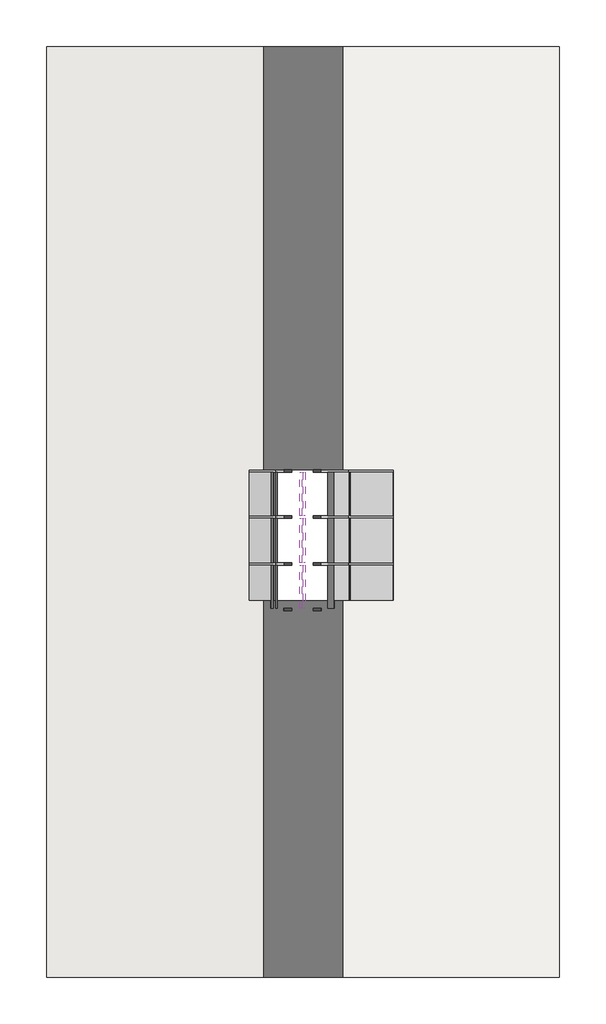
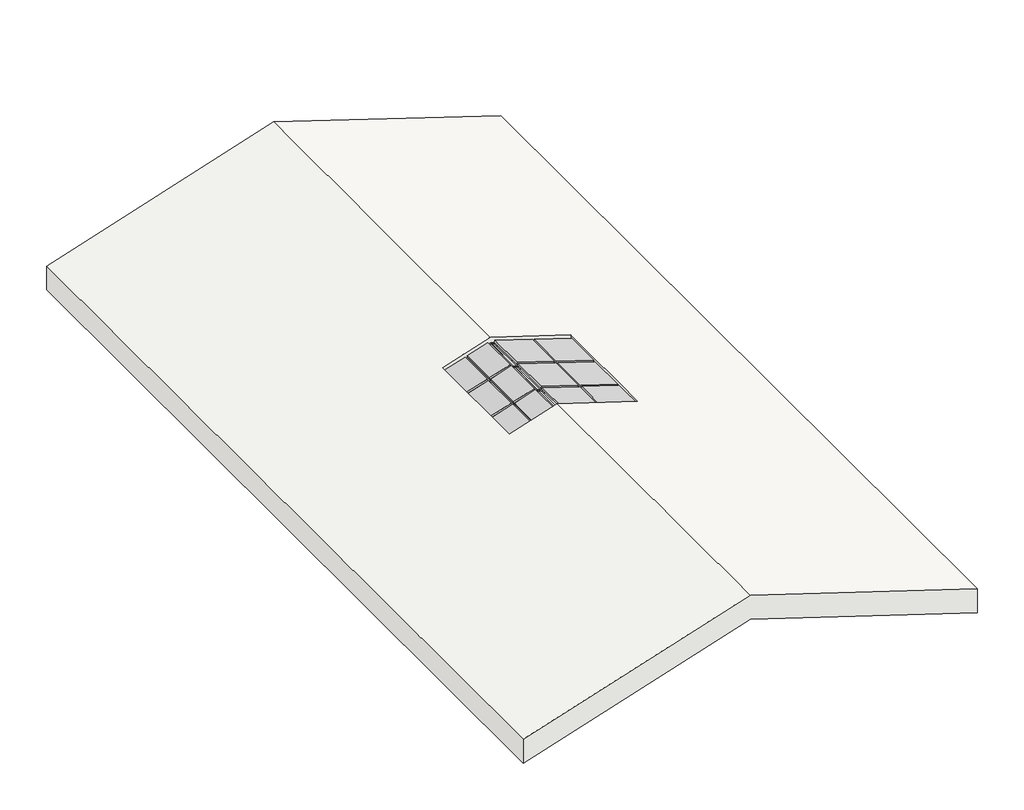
# One storey: 34 members, 12 plates, 1 roof.
"""IFC4 building model written with IfcOpenShell, lengths in millimetres."""

import ifcopenshell
import ifcopenshell.guid

model = None  # the IFC model being written
_history = None  # IfcOwnerHistory: only IFC2X3 demands one
_inside = {}  # id of a spatial element -> (the spatial element, [elements in it])
_under = {}  # id of a project, library or spatial element -> (it, [spatial elements below it])
_declared = {}  # id of a project -> (the project, [libraries it declares])
_typed = {}  # id of a type object -> (the type object, [elements of that type])
_made_of = {}  # id of a material, layer set ... -> (it, [elements and type objects made of it])


def new_model(schema):
    """Start an empty IFC model of exactly this schema.

    Asked for "IFC4X3", IfcOpenShell would pick the latest addendum, in which some entities
    have other attributes; the version numbers below select the first issue.
    IFC2X3 requires an IfcOwnerHistory on every rooted entity: one is made here for all.
    """
    global model, _history
    if schema == "IFC4X3":
        model = ifcopenshell.file(schema_version=(4, 3, 0, 0))
    else:
        model = ifcopenshell.file(schema=schema)
    _inside.clear()
    _under.clear()
    _declared.clear()
    _typed.clear()
    _made_of.clear()
    _history = None
    if model.schema == "IFC2X3":
        org = make("IfcOrganization", Name="unknown")
        user = make(
            "IfcPersonAndOrganization",
            ThePerson=make("IfcPerson", FamilyName="unknown"),
            TheOrganization=org,
        )
        app = make(
            "IfcApplication",
            ApplicationDeveloper=org,
            Version="unknown",
            ApplicationFullName="unknown",
            ApplicationIdentifier="unknown",
        )
        _history = make(
            "IfcOwnerHistory",
            OwningUser=user,
            OwningApplication=app,
            ChangeAction="ADDED",
            CreationDate=0,
        )
    return model


def make(cls, **values):
    """One entity of the class cls with the attributes given. An attribute that is None is left unset."""
    return model.create_entity(
        cls, **{name: value for name, value in values.items() if value is not None}
    )


def rooted(cls, **values):
    """An entity with a GlobalId (a new one), such as an element, a storey or a relation."""
    return make(cls, GlobalId=ifcopenshell.guid.new(), OwnerHistory=_history, **values)


def si_unit(unit_type, name, prefix=None):
    """IfcSIUnit, for example si_unit("LENGTHUNIT", "METRE", prefix="MILLI")."""
    return make("IfcSIUnit", UnitType=unit_type, Prefix=prefix, Name=name)


def assignment(units):
    """IfcUnitAssignment: the units of a project."""
    return None if units is None else make("IfcUnitAssignment", Units=units)


def point(xyz):
    """IfcCartesianPoint."""
    return None if xyz is None else make("IfcCartesianPoint", Coordinates=xyz)


def direction(xyz):
    """IfcDirection."""
    return None if xyz is None else make("IfcDirection", DirectionRatios=xyz)


def frame(location, z_axis=None, x_axis=None):
    """IfcAxis2Placement3D, a coordinate frame: its origin and axes. An axis left out is left unset."""
    return make(
        "IfcAxis2Placement3D",
        Location=point(location),
        Axis=direction(z_axis),
        RefDirection=direction(x_axis),
    )


def origin():
    """The frame at (0, 0, 0) with its axes left unset."""
    return frame((0.0, 0.0, 0.0))


def origin_with_axes():
    """The frame at (0, 0, 0) with the z axis (0, 0, 1) and the x axis (1, 0, 0) written out."""
    return frame((0.0, 0.0, 0.0), z_axis=(0.0, 0.0, 1.0), x_axis=(1.0, 0.0, 0.0))


def place(relative_to, where):
    """IfcLocalPlacement: puts the frame where relative to a parent placement (None: the world)."""
    return make(
        "IfcLocalPlacement", PlacementRelTo=relative_to, RelativePlacement=where
    )


def context(
    kind, dimensions, precision=None, world=None, true_north=None, identifier=None
):
    """IfcGeometricRepresentationContext, for example the 3D "Model" context."""
    return make(
        "IfcGeometricRepresentationContext",
        ContextIdentifier=identifier,
        ContextType=kind,
        CoordinateSpaceDimension=dimensions,
        Precision=precision,
        WorldCoordinateSystem=world,
        TrueNorth=true_north,
    )


def project(units=None, contexts=None):
    """IfcProject with its units and contexts."""
    return rooted(
        "IfcProject",
        Name="project",
        RepresentationContexts=contexts,
        UnitsInContext=assignment(units),
    )


def spatial(cls, under=None, at=None, **own):
    """A site, building, storey or space (cls), placed at a placement, below another one or the project."""
    s = rooted(cls, ObjectPlacement=at, **own)
    if under is not None:
        _under.setdefault(under.id(), (under, []))[1].append(s)
    return s


def polyline(points):
    """IfcPolyline through the points."""
    return make("IfcPolyline", Points=[point(p) for p in points])


def outline(outer, holes=None, kind="AREA"):
    """IfcArbitraryClosedProfileDef: a profile drawn as a closed curve; with holes, ...WithVoids."""
    if holes is None:
        return make("IfcArbitraryClosedProfileDef", ProfileType=kind, OuterCurve=outer)
    return make(
        "IfcArbitraryProfileDefWithVoids",
        ProfileType=kind,
        OuterCurve=outer,
        InnerCurves=holes,
    )


def extrude(swept, where, along, depth):
    """IfcExtrudedAreaSolid: the profile swept, set in the frame where, extruded along a direction by depth."""
    return make(
        "IfcExtrudedAreaSolid",
        SweptArea=swept,
        Position=where,
        ExtrudedDirection=direction(along),
        Depth=depth,
    )


def faces_of(points, faces, orient=None, outer=None):
    """IfcFace entities. A face is a list of loops; a loop is a list of indices into points, from 0.

    orient and outer hold one flag for each loop. By default every Orientation is true, the
    first loop of a face is its IfcFaceOuterBound and the others are IfcFaceBound.
    """
    made = []
    for i, loops in enumerate(faces):
        bounds = []
        for j, loop in enumerate(loops):
            is_outer = j == 0 if outer is None else outer[i][j]
            bounds.append(
                make(
                    "IfcFaceOuterBound" if is_outer else "IfcFaceBound",
                    Bound=make("IfcPolyLoop", Polygon=[points[k] for k in loop]),
                    Orientation=True if orient is None else orient[i][j],
                )
            )
        made.append(make("IfcFace", Bounds=bounds))
    return made


def faceted_brep(points, faces, orient=None, outer=None, voids=None):
    """IfcFacetedBrep: a solid bounded by flat faces; with voids (closed shells), ...WithVoids."""
    shared = [point(p) for p in points]
    hull = make("IfcClosedShell", CfsFaces=faces_of(shared, faces, orient, outer))
    if voids is None:
        return make("IfcFacetedBrep", Outer=hull)
    return make(
        "IfcFacetedBrepWithVoids",
        Outer=hull,
        Voids=[
            make(cls, CfsFaces=faces_of(shared, fs, o, b)) for cls, fs, o, b in voids
        ],
    )


def shape(context_of_items, identifier, shape_type, items):
    """IfcShapeRepresentation: the items that make up one representation, for example the "Body"."""
    return make(
        "IfcShapeRepresentation",
        ContextOfItems=context_of_items,
        RepresentationIdentifier=identifier,
        RepresentationType=shape_type,
        Items=items,
    )


def source(mapping_origin, context_of_items, identifier, shape_type, items):
    """IfcRepresentationMap: a shape defined once, which mapped items show again and again."""
    return make(
        "IfcRepresentationMap",
        MappingOrigin=mapping_origin,
        MappedRepresentation=shape(context_of_items, identifier, shape_type, items),
    )


def transform(
    local_origin,
    x_axis=None,
    y_axis=None,
    z_axis=None,
    scale=None,
    scale2=None,
    scale3=None,
    uniform=True,
):
    """IfcCartesianTransformationOperator3D, or its non-uniform kind. x_axis, y_axis, z_axis: its Axis1, 2, 3."""
    if uniform:
        return make(
            "IfcCartesianTransformationOperator3D",
            Axis1=direction(x_axis),
            Axis2=direction(y_axis),
            LocalOrigin=point(local_origin),
            Scale=scale,
            Axis3=direction(z_axis),
        )
    return make(
        "IfcCartesianTransformationOperator3DnonUniform",
        Axis1=direction(x_axis),
        Axis2=direction(y_axis),
        LocalOrigin=point(local_origin),
        Scale=scale,
        Axis3=direction(z_axis),
        Scale2=scale2,
        Scale3=scale3,
    )


def mapped(mapping_source, mapping_target):
    """IfcMappedItem: shows the shape of a source again, moved by a transform."""
    return make(
        "IfcMappedItem", MappingSource=mapping_source, MappingTarget=mapping_target
    )


def made_of(thing, what):
    """Note that an element or type object is made of a material, layer set ...; save() writes the relation."""
    if what is not None:
        _made_of.setdefault(what.id(), (what, []))[1].append(thing)
    return thing


def element(
    cls,
    number,
    at=None,
    inside=None,
    cuts=None,
    type_object=None,
    material=None,
    context=None,
    identifier="Body",
    shape_type=None,
    held_by="IfcProductDefinitionShape",
    body=None,
    shapes=None,
    **own,
):
    """One element of the class cls, such as IfcWall. Its Tag is "e" and its number.

    at: its placement. inside: the storey or other place that contains it. cuts: it is an
    opening in that element (IfcRelVoidsElement). A single representation is given by context,
    identifier, shape_type and body (its items); several are given by shapes. held_by: the class
    of the entity that holds the representations. save() writes the other relations.
    """
    e = rooted(cls, Tag="e%d" % number, ObjectPlacement=at, **own)
    if body is not None:
        shapes = [shape(context, identifier, shape_type, body)]
    if shapes is not None:
        e.Representation = make(held_by, Representations=shapes)
    if inside is not None:
        _inside.setdefault(inside.id(), (inside, []))[1].append(e)
    if cuts is not None:
        rooted(
            "IfcRelVoidsElement", RelatingBuildingElement=cuts, RelatedOpeningElement=e
        )
    if type_object is not None:
        _typed.setdefault(type_object.id(), (type_object, []))[1].append(e)
    return made_of(e, material)


def aggregate(whole, parts):
    """IfcRelAggregates: a whole, such as a stair, and the parts it consists of."""
    return rooted("IfcRelAggregates", RelatingObject=whole, RelatedObjects=parts)


def save(model, path):
    """Write the relations noted so far, then the file.

    IfcRelAggregates (storeys below a building ...), IfcRelContainedInSpatialStructure (elements
    in a storey), IfcRelDefinesByType, IfcRelAssociatesMaterial and IfcRelDeclares: one each for
    every whole, place, type object, material and project.
    """
    for whole, parts in _under.values():
        aggregate(whole, parts)
    for where, things in _inside.values():
        rooted(
            "IfcRelContainedInSpatialStructure",
            RelatedElements=things,
            RelatingStructure=where,
        )
    for kind, things in _typed.values():
        rooted("IfcRelDefinesByType", RelatedObjects=things, RelatingType=kind)
    for what, things in _made_of.values():
        rooted("IfcRelAssociatesMaterial", RelatedObjects=things, RelatingMaterial=what)
    for by, libraries in _declared.values():
        rooted("IfcRelDeclares", RelatingContext=by, RelatedDefinitions=libraries)
    model.write(path)


def rectangular_mullion_30mm_square_e5194141(model_context):
    return source(origin(), model_context, "Body", "SweptSolid", [
        extrude(outline(polyline([(-15.0, 0.0), (15.0, 0.0), (15.0, -342.1521112), (-15.0, -351.7780141), (-15.0, 0.0)])), frame((-15.0, 0.0, 0.0), z_axis=(1.0, 0.0, 0.0), x_axis=(0.0, 1.0, 0.0)), (0.0, 0.0, 1.0), 30.0),
    ])


def rectangular_mullion_30mm_square_0eed9e45(model_context):
    return source(origin(), model_context, "Body", "SweptSolid", [
        extrude(outline(polyline([(15.0, 15.0), (15.0, -15.0), (-15.0, -15.0), (-15.0, 15.0), (15.0, 15.0)])), frame((0.0, 0.0, -530.0), z_axis=(0.0, 0.0, 1.0), x_axis=(1.0, 0.0, 0.0)), (0.0, 0.0, 1.0), 530.0),
    ])


def rectangular_mullion_30mm_square_a0bf7eaf(model_context):
    return source(origin(), model_context, "Body", "SweptSolid", [
        extrude(outline(polyline([(15.0, 15.0), (15.0, -15.0), (-15.0, -15.0), (-15.0, 15.0), (15.0, 15.0)])), frame((0.0, 0.0, -545.0), z_axis=(0.0, 0.0, 1.0), x_axis=(1.0, 0.0, 0.0)), (0.0, 0.0, 1.0), 545.0),
    ])


def rectangular_mullion_30mm_square_566eecd6(model_context):
    return source(origin(), model_context, "Body", "SweptSolid", [
        extrude(outline(polyline([(15.0, 15.0), (15.0, -15.0), (-15.0, -15.0), (-15.0, 15.0), (15.0, 15.0)])), frame((0.0, 0.0, -585.1015074), z_axis=(0.0, 0.0, 1.0), x_axis=(1.0, 0.0, 0.0)), (0.0, 0.0, 1.0), 585.1015074),
    ])


def rectangular_mullion_30mm_square_ec360079(model_context):
    return source(origin(), model_context, "Body", "SweptSolid", [
        extrude(outline(polyline([(15.0, 15.0), (15.0, -15.0), (-15.0, -15.0), (-15.0, 15.0), (15.0, 15.0)])), frame((0.0, 0.0, -346.9650626), z_axis=(0.0, 0.0, 1.0), x_axis=(1.0, 0.0, 0.0)), (0.0, 0.0, 1.0), 346.9650626),
    ])


def rectangular_mullion_30mm_square_dfaa4696(model_context):
    return source(origin(), model_context, "Body", "SweptSolid", [
        extrude(outline(polyline([(0.0, 15.0), (0.0, -15.0), (-30.0, -15.0), (-30.0, 15.0), (0.0, 15.0)])), frame((0.0, 0.0, -585.1015074), z_axis=(0.0, 0.0, 1.0), x_axis=(1.0, 0.0, 0.0)), (0.0, 0.0, 1.0), 585.1015074),
    ])


def rectangular_mullion_30mm_square_f75d90f3(model_context):
    return source(origin(), model_context, "Body", "SweptSolid", [
        extrude(outline(polyline([(0.0, 15.0), (0.0, -15.0), (-30.0, -15.0), (-30.0, 15.0), (0.0, 15.0)])), frame((0.0, 0.0, -530.0), z_axis=(0.0, 0.0, 1.0), x_axis=(1.0, 0.0, 0.0)), (0.0, 0.0, 1.0), 530.0),
    ])


def rectangular_mullion_30mm_square_a71511a0(model_context):
    return source(origin(), model_context, "Body", "SweptSolid", [
        extrude(outline(polyline([(0.0, 15.0), (0.0, -15.0), (-30.0, -15.0), (-30.0, 15.0), (0.0, 15.0)])), frame((0.0, 0.0, -545.0), z_axis=(0.0, 0.0, 1.0), x_axis=(1.0, 0.0, 0.0)), (0.0, 0.0, 1.0), 545.0),
    ])


def rectangular_mullion_30mm_square_c053b5b2(model_context):
    return source(origin(), model_context, "Body", "SweptSolid", [
        extrude(outline(polyline([(0.0, 15.0), (0.0, -15.0), (-30.0, -15.0), (-30.0, 15.0), (0.0, 15.0)])), frame((0.0, 0.0, -346.9650626), z_axis=(0.0, 0.0, 1.0), x_axis=(1.0, 0.0, 0.0)), (0.0, 0.0, 1.0), 346.9650626),
    ])


def rectangular_mullion_30mm_square_f0c17284(model_context):
    return source(origin(), model_context, "Body", "SweptSolid", [
        extrude(outline(polyline([(-15.0, 4.8129514), (15.0, -4.8129514), (15.0, -585.1015074), (-15.0, -585.1015074), (-15.0, 4.8129514)])), frame((-15.0, 0.0, 0.0), z_axis=(1.0, 0.0, 0.0), x_axis=(0.0, 1.0, 0.0)), (0.0, 0.0, 1.0), 30.0),
    ])


def m_glazed_panel_glazed_panel_fdc266c1(model_context):
    return source(origin(), model_context, "Body", "SweptSolid", [
        extrude(outline(polyline([(265.0, 38.5), (-265.0, 38.5), (-265.0, 63.5), (265.0, 63.5), (265.0, 38.5)])), origin_with_axes(), (0.0, 0.0, 1.0), 301.9650626),
    ])


def m_glazed_panel_glazed_panel_67c75c62(model_context):
    return source(origin(), model_context, "Body", "SweptSolid", [
        extrude(outline(polyline([(265.0, 38.5), (-265.0, 38.5), (-265.0, 63.5), (265.0, 63.5), (265.0, 38.5)])), origin_with_axes(), (0.0, 0.0, 1.0), 540.1015074),
    ])


def m_glazed_panel_glazed_panel_c1b7c775(model_context):
    return source(origin(), model_context, "Body", "SweptSolid", [
        extrude(outline(polyline([(272.5, 38.5), (-272.5, 38.5), (-272.5, 63.5), (272.5, 63.5), (272.5, 38.5)])), origin_with_axes(), (0.0, 0.0, 1.0), 540.1015074),
    ])


def m_glazed_panel_glazed_panel_9a824eb0(model_context):
    return source(origin(), model_context, "Body", "SweptSolid", [
        extrude(outline(polyline([(272.5, 38.5), (-272.5, 38.5), (-272.5, 63.5), (272.5, 63.5), (272.5, 38.5)])), origin_with_axes(), (0.0, 0.0, 1.0), 301.9650626),
    ])


model = new_model("IFC4")

# Units and contexts
model_context = context("Model", 3, world=origin())
ifc_project = project(units=[si_unit("LENGTHUNIT", "METRE", prefix="MILLI")], contexts=[model_context])

# Site, building, storey
site = spatial("IfcSite", under=ifc_project)
building = spatial("IfcBuilding", under=site)
storey = spatial("IfcBuildingStorey", under=building, Name="Střecha", Elevation=6000.0)

# Members
placement = place(None, origin())
rectangular_mullion_30mm_square_shape = rectangular_mullion_30mm_square_e5194141(model_context)
element("IfcMember", 1, ObjectType="Rectangular Mullion : 30mm Square", at=placement, inside=storey, context=model_context, shape_type="MappedRepresentation", body=[
    mapped(rectangular_mullion_30mm_square_shape, transform((-5331.4516822, -1176.8406402, 7152.0615541), x_axis=(0.0, 1.0, 0.0), y_axis=(0.30552140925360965, 0.0, -0.9521852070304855), z_axis=(-0.9521852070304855, 0.0, -0.30552140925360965))),
])
element("IfcMember", 2, ObjectType="Rectangular Mullion : 30mm Square", at=placement, inside=storey, context=model_context, shape_type="MappedRepresentation", body=[
    mapped(rectangular_mullion_30mm_square_shape, transform((-5331.4516822, -1751.8406402, 7152.0615541), x_axis=(0.0, 1.0, 0.0), y_axis=(0.30552140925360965, 0.0, -0.9521852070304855), z_axis=(-0.9521852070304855, 0.0, -0.30552140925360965))),
])
rectangular_mullion_30mm_square_2_shape = rectangular_mullion_30mm_square_0eed9e45(model_context)
element("IfcMember", 3, ObjectType="Rectangular Mullion : 30mm Square", at=placement, inside=storey, context=model_context, shape_type="MappedRepresentation", body=[
    mapped(rectangular_mullion_30mm_square_2_shape, transform((-4443.9516822, -1766.8406402, 7079.3057719), x_axis=(0.952185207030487, 0.0, -0.3055214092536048), y_axis=(-0.3055214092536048, 0.0, -0.952185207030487), z_axis=(0.0, 1.0, 0.0))),
])
element("IfcMember", 4, ObjectType="Rectangular Mullion : 30mm Square", at=placement, inside=storey, context=model_context, shape_type="MappedRepresentation", body=[
    mapped(rectangular_mullion_30mm_square_2_shape, transform((-4443.9516822, -631.8406402, 7079.3057719), x_axis=(0.952185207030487, 0.0, -0.3055214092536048), y_axis=(-0.3055214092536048, 0.0, -0.952185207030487), z_axis=(0.0, 1.0, 0.0))),
])
rectangular_mullion_30mm_square_3_shape = rectangular_mullion_30mm_square_a0bf7eaf(model_context)
element("IfcMember", 5, ObjectType="Rectangular Mullion : 30mm Square", at=placement, inside=storey, context=model_context, shape_type="MappedRepresentation", body=[
    mapped(rectangular_mullion_30mm_square_3_shape, transform((-4443.9516822, -1191.8406402, 7079.3057719), x_axis=(0.952185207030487, 0.0, -0.3055214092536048), y_axis=(-0.3055214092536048, 0.0, -0.952185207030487), z_axis=(0.0, 1.0, 0.0))),
])
rectangular_mullion_30mm_square_4_shape = rectangular_mullion_30mm_square_566eecd6(model_context)
element("IfcMember", 6, ObjectType="Rectangular Mullion : 30mm Square", at=placement, inside=storey, context=model_context, shape_type="MappedRepresentation", body=[
    mapped(rectangular_mullion_30mm_square_4_shape, transform((-4443.9516822, -1176.8406402, 7079.3057719), x_axis=(0.0, 1.0, 0.0), y_axis=(-0.3055214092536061, 0.0, -0.9521852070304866), z_axis=(-0.9521852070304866, 0.0, 0.3055214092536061))),
])
element("IfcMember", 7, ObjectType="Rectangular Mullion : 30mm Square", at=placement, inside=storey, context=model_context, shape_type="MappedRepresentation", body=[
    mapped(rectangular_mullion_30mm_square_4_shape, transform((-4443.9516822, -1751.8406402, 7079.3057719), x_axis=(0.0, 1.0, 0.0), y_axis=(-0.3055214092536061, 0.0, -0.9521852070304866), z_axis=(-0.9521852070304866, 0.0, 0.3055214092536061))),
])
rectangular_mullion_30mm_square_5_shape = rectangular_mullion_30mm_square_ec360079(model_context)
element("IfcMember", 8, ObjectType="Rectangular Mullion : 30mm Square", at=placement, inside=storey, context=model_context, shape_type="MappedRepresentation", body=[
    mapped(rectangular_mullion_30mm_square_5_shape, transform((-5661.8266822, -1176.8406402, 7046.0562992), x_axis=(0.0, 1.0, 0.0), y_axis=(0.30552140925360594, 0.0, -0.9521852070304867), z_axis=(-0.9521852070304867, 0.0, -0.30552140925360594))),
])
element("IfcMember", 9, ObjectType="Rectangular Mullion : 30mm Square", at=placement, inside=storey, context=model_context, shape_type="MappedRepresentation", body=[
    mapped(rectangular_mullion_30mm_square_5_shape, transform((-5661.8266822, -1751.8406402, 7046.0562992), x_axis=(0.0, 1.0, 0.0), y_axis=(0.30552140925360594, 0.0, -0.9521852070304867), z_axis=(-0.9521852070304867, 0.0, -0.30552140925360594))),
])
element("IfcMember", 10, ObjectType="Rectangular Mullion : 30mm Square", at=placement, inside=storey, context=model_context, shape_type="MappedRepresentation", body=[
    mapped(rectangular_mullion_30mm_square_2_shape, transform((-5331.4516822, -1766.8406402, 7152.0615541), x_axis=(0.9521852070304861, 0.0, 0.3055214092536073), y_axis=(0.3055214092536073, 0.0, -0.9521852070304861), z_axis=(0.0, 1.0, 0.0))),
])
element("IfcMember", 11, ObjectType="Rectangular Mullion : 30mm Square", at=placement, inside=storey, context=model_context, shape_type="MappedRepresentation", body=[
    mapped(rectangular_mullion_30mm_square_2_shape, transform((-5331.4516822, -631.8406402, 7152.0615541), x_axis=(0.9521852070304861, 0.0, 0.3055214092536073), y_axis=(0.3055214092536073, 0.0, -0.9521852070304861), z_axis=(0.0, 1.0, 0.0))),
])
element("IfcMember", 12, ObjectType="Rectangular Mullion : 30mm Square", at=placement, inside=storey, context=model_context, shape_type="MappedRepresentation", body=[
    mapped(rectangular_mullion_30mm_square_3_shape, transform((-5331.4516822, -1191.8406402, 7152.0615541), x_axis=(0.9521852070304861, 0.0, 0.3055214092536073), y_axis=(0.3055214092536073, 0.0, -0.9521852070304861), z_axis=(0.0, 1.0, 0.0))),
])
rectangular_mullion_30mm_square_6_shape = rectangular_mullion_30mm_square_dfaa4696(model_context)
element("IfcMember", 13, ObjectType="Rectangular Mullion : 30mm Square", at=placement, inside=storey, context=model_context, shape_type="MappedRepresentation", body=[
    mapped(rectangular_mullion_30mm_square_6_shape, transform((-5001.0766822, -601.8406402, 7258.066809), x_axis=(0.0, 1.0, 0.0), y_axis=(-0.30552140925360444, 0.0, -0.9521852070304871), z_axis=(-0.952185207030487, 0.0, 0.3055214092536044))),
])
rectangular_mullion_30mm_square_7_shape = rectangular_mullion_30mm_square_f75d90f3(model_context)
element("IfcMember", 14, ObjectType="Rectangular Mullion : 30mm Square", at=placement, inside=storey, context=model_context, shape_type="MappedRepresentation", body=[
    mapped(rectangular_mullion_30mm_square_7_shape, transform((-5001.0766822, -2296.8406402, 7258.066809), x_axis=(-0.952185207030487, 0.0, 0.3055214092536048), y_axis=(-0.3055214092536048, 0.0, -0.952185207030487), z_axis=(0.0, -1.0, 0.0))),
])
element("IfcMember", 15, ObjectType="Rectangular Mullion : 30mm Square", at=placement, inside=storey, context=model_context, shape_type="MappedRepresentation", body=[
    mapped(rectangular_mullion_30mm_square_7_shape, transform((-5001.0766822, -1161.8406402, 7258.066809), x_axis=(-0.952185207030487, 0.0, 0.3055214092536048), y_axis=(-0.3055214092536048, 0.0, -0.952185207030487), z_axis=(0.0, -1.0, 0.0))),
])
element("IfcMember", 16, ObjectType="Rectangular Mullion : 30mm Square", at=placement, inside=storey, context=model_context, shape_type="MappedRepresentation", body=[
    mapped(rectangular_mullion_30mm_square_7_shape, transform((-5001.0766822, -631.8406402, 7258.066809), x_axis=(0.9521852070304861, 0.0, 0.3055214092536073), y_axis=(0.3055214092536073, 0.0, -0.9521852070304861), z_axis=(0.0, 1.0, 0.0))),
])
element("IfcMember", 17, ObjectType="Rectangular Mullion : 30mm Square", at=placement, inside=storey, context=model_context, shape_type="MappedRepresentation", body=[
    mapped(rectangular_mullion_30mm_square_7_shape, transform((-5001.0766822, -1766.8406402, 7258.066809), x_axis=(0.9521852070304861, 0.0, 0.3055214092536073), y_axis=(0.3055214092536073, 0.0, -0.9521852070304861), z_axis=(0.0, 1.0, 0.0))),
])
element("IfcMember", 18, ObjectType="Rectangular Mullion : 30mm Square", at=placement, inside=storey, context=model_context, shape_type="MappedRepresentation", body=[
    mapped(rectangular_mullion_30mm_square_7_shape, transform((-3886.8266822, -631.8406402, 6900.5447348), x_axis=(0.952185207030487, 0.0, -0.3055214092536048), y_axis=(-0.3055214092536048, 0.0, -0.952185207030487), z_axis=(0.0, 1.0, 0.0))),
])
element("IfcMember", 19, ObjectType="Rectangular Mullion : 30mm Square", at=placement, inside=storey, context=model_context, shape_type="MappedRepresentation", body=[
    mapped(rectangular_mullion_30mm_square_7_shape, transform((-3886.8266822, -1766.8406402, 6900.5447348), x_axis=(0.952185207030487, 0.0, -0.3055214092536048), y_axis=(-0.3055214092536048, 0.0, -0.952185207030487), z_axis=(0.0, 1.0, 0.0))),
])
element("IfcMember", 20, ObjectType="Rectangular Mullion : 30mm Square", at=placement, inside=storey, context=model_context, shape_type="MappedRepresentation", body=[
    mapped(rectangular_mullion_30mm_square_7_shape, transform((-5661.8266822, -2296.8406402, 7046.0562992), x_axis=(-0.9521852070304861, 0.0, -0.3055214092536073), y_axis=(0.3055214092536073, 0.0, -0.9521852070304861), z_axis=(0.0, -1.0, 0.0))),
])
element("IfcMember", 21, ObjectType="Rectangular Mullion : 30mm Square", at=placement, inside=storey, context=model_context, shape_type="MappedRepresentation", body=[
    mapped(rectangular_mullion_30mm_square_7_shape, transform((-5661.8266822, -1161.8406402, 7046.0562992), x_axis=(-0.9521852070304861, 0.0, -0.3055214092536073), y_axis=(0.3055214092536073, 0.0, -0.9521852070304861), z_axis=(0.0, -1.0, 0.0))),
])
element("IfcMember", 22, ObjectType="Rectangular Mullion : 30mm Square", at=placement, inside=storey, context=model_context, shape_type="MappedRepresentation", body=[
    mapped(rectangular_mullion_30mm_square_6_shape, transform((-3886.8266822, -2326.8406402, 6900.5447348), x_axis=(0.0, -1.0, 0.0), y_axis=(-0.30552140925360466, 0.0, -0.952185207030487), z_axis=(0.952185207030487, 0.0, -0.30552140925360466))),
])
element("IfcMember", 23, ObjectType="Rectangular Mullion : 30mm Square", at=placement, inside=storey, context=model_context, shape_type="MappedRepresentation", body=[
    mapped(rectangular_mullion_30mm_square_6_shape, transform((-4443.9516822, -601.8406402, 7079.3057719), x_axis=(0.0, 1.0, 0.0), y_axis=(-0.3055214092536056, 0.0, -0.9521852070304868), z_axis=(-0.9521852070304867, 0.0, 0.30552140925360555))),
])
rectangular_mullion_30mm_square_8_shape = rectangular_mullion_30mm_square_a71511a0(model_context)
element("IfcMember", 24, ObjectType="Rectangular Mullion : 30mm Square", at=placement, inside=storey, context=model_context, shape_type="MappedRepresentation", body=[
    mapped(rectangular_mullion_30mm_square_8_shape, transform((-3886.8266822, -1191.8406402, 6900.5447348), x_axis=(0.952185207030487, 0.0, -0.3055214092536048), y_axis=(-0.3055214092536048, 0.0, -0.952185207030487), z_axis=(0.0, 1.0, 0.0))),
])
element("IfcMember", 25, ObjectType="Rectangular Mullion : 30mm Square", at=placement, inside=storey, context=model_context, shape_type="MappedRepresentation", body=[
    mapped(rectangular_mullion_30mm_square_8_shape, transform((-5661.8266822, -1736.8406402, 7046.0562992), x_axis=(-0.9521852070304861, 0.0, -0.3055214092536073), y_axis=(0.3055214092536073, 0.0, -0.9521852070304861), z_axis=(0.0, -1.0, 0.0))),
])
element("IfcMember", 26, ObjectType="Rectangular Mullion : 30mm Square", at=placement, inside=storey, context=model_context, shape_type="MappedRepresentation", body=[
    mapped(rectangular_mullion_30mm_square_6_shape, transform((-4443.9516822, -2326.8406402, 7079.3057719), x_axis=(0.0, -1.0, 0.0), y_axis=(-0.3055214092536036, 0.0, -0.9521852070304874), z_axis=(0.9521852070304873, 0.0, -0.30552140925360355))),
])
element("IfcMember", 27, ObjectType="Rectangular Mullion : 30mm Square", at=placement, inside=storey, context=model_context, shape_type="MappedRepresentation", body=[
    mapped(rectangular_mullion_30mm_square_8_shape, transform((-5001.0766822, -1736.8406402, 7258.066809), x_axis=(-0.952185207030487, 0.0, 0.3055214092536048), y_axis=(-0.3055214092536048, 0.0, -0.952185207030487), z_axis=(0.0, -1.0, 0.0))),
])
element("IfcMember", 28, ObjectType="Rectangular Mullion : 30mm Square", at=placement, inside=storey, context=model_context, shape_type="MappedRepresentation", body=[
    mapped(rectangular_mullion_30mm_square_8_shape, transform((-5001.0766822, -1191.8406402, 7258.066809), x_axis=(0.9521852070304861, 0.0, 0.3055214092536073), y_axis=(0.3055214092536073, 0.0, -0.9521852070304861), z_axis=(0.0, 1.0, 0.0))),
])
rectangular_mullion_30mm_square_9_shape = rectangular_mullion_30mm_square_c053b5b2(model_context)
element("IfcMember", 29, ObjectType="Rectangular Mullion : 30mm Square", at=placement, inside=storey, context=model_context, shape_type="MappedRepresentation", body=[
    mapped(rectangular_mullion_30mm_square_9_shape, transform((-5661.8266822, -601.8406402, 7046.0562992), x_axis=(0.0, 1.0, 0.0), y_axis=(0.30552140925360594, 0.0, -0.9521852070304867), z_axis=(-0.9521852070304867, 0.0, -0.30552140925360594))),
])
element("IfcMember", 30, ObjectType="Rectangular Mullion : 30mm Square", at=placement, inside=storey, context=model_context, shape_type="MappedRepresentation", body=[
    mapped(rectangular_mullion_30mm_square_9_shape, transform((-5001.0766822, -2326.8406402, 7258.066809), x_axis=(0.0, -1.0, 0.0), y_axis=(0.30552140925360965, 0.0, -0.9521852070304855), z_axis=(0.9521852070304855, 0.0, 0.30552140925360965))),
])
element("IfcMember", 31, ObjectType="Rectangular Mullion : 30mm Square", at=placement, inside=storey, context=model_context, shape_type="MappedRepresentation", body=[
    mapped(rectangular_mullion_30mm_square_9_shape, transform((-5331.4516822, -601.8406402, 7152.0615541), x_axis=(0.0, 1.0, 0.0), y_axis=(0.30552140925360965, 0.0, -0.9521852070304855), z_axis=(-0.9521852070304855, 0.0, -0.30552140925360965))),
])
element("IfcMember", 32, ObjectType="Rectangular Mullion : 30mm Square", at=placement, inside=storey, context=model_context, shape_type="MappedRepresentation", body=[
    mapped(rectangular_mullion_30mm_square_9_shape, transform((-5331.4516822, -2326.8406402, 7152.0615541), x_axis=(0.0, -1.0, 0.0), y_axis=(0.3055214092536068, 0.0, -0.9521852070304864), z_axis=(0.9521852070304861, 0.0, 0.30552140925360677))),
])
rectangular_mullion_30mm_square_10_shape = rectangular_mullion_30mm_square_f0c17284(model_context)
element("IfcMember", 33, ObjectType="Rectangular Mullion : 30mm Square", at=placement, inside=storey, context=model_context, shape_type="MappedRepresentation", body=[
    mapped(rectangular_mullion_30mm_square_10_shape, transform((-5001.0766822, -1176.8406402, 7258.066809), x_axis=(0.0, 1.0, 0.0), y_axis=(-0.30552140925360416, 0.0, -0.9521852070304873), z_axis=(-0.9521852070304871, 0.0, 0.3055214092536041))),
])
element("IfcMember", 34, ObjectType="Rectangular Mullion : 30mm Square", at=placement, inside=storey, context=model_context, shape_type="MappedRepresentation", body=[
    mapped(rectangular_mullion_30mm_square_10_shape, transform((-5001.0766822, -1751.8406402, 7258.066809), x_axis=(0.0, 1.0, 0.0), y_axis=(-0.30552140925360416, 0.0, -0.9521852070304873), z_axis=(-0.9521852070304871, 0.0, 0.3055214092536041))),
])

# Plates
m_glazed_panel_glazed_panel_shape = m_glazed_panel_glazed_panel_fdc266c1(model_context)
element("IfcPlate", 35, ObjectType="M_Glazed Panel : Glazed Panel", at=placement, inside=storey, context=model_context, shape_type="MappedRepresentation", body=[
    mapped(m_glazed_panel_glazed_panel_shape, transform((-5633.261126, -2031.8406402, 7055.2219415), x_axis=(0.0, 1.0, 0.0), y_axis=(-0.3055214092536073, 0.0, 0.9521852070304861), z_axis=(0.9521852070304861, 0.0, 0.3055214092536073))),
])
element("IfcPlate", 36, ObjectType="M_Glazed Panel : Glazed Panel", at=placement, inside=storey, context=model_context, shape_type="MappedRepresentation", body=[
    mapped(m_glazed_panel_glazed_panel_shape, transform((-5633.261126, -896.8406402, 7055.2219415), x_axis=(0.0, 1.0, 0.0), y_axis=(-0.3055214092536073, 0.0, 0.9521852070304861), z_axis=(0.9521852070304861, 0.0, 0.3055214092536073))),
])
element("IfcPlate", 37, ObjectType="M_Glazed Panel : Glazed Panel", at=placement, inside=storey, context=model_context, shape_type="MappedRepresentation", body=[
    mapped(m_glazed_panel_glazed_panel_shape, transform((-5317.1689041, -2031.8406402, 7156.6443753), x_axis=(0.0, 1.0, 0.0), y_axis=(-0.3055214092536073, 0.0, 0.9521852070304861), z_axis=(0.9521852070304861, 0.0, 0.3055214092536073))),
])
element("IfcPlate", 38, ObjectType="M_Glazed Panel : Glazed Panel", at=placement, inside=storey, context=model_context, shape_type="MappedRepresentation", body=[
    mapped(m_glazed_panel_glazed_panel_shape, transform((-5317.1689041, -896.8406402, 7156.6443753), x_axis=(0.0, 1.0, 0.0), y_axis=(-0.3055214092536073, 0.0, 0.9521852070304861), z_axis=(0.9521852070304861, 0.0, 0.3055214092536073))),
])
m_glazed_panel_glazed_panel_2_shape = m_glazed_panel_glazed_panel_67c75c62(model_context)
element("IfcPlate", 39, ObjectType="M_Glazed Panel : Glazed Panel", at=placement, inside=storey, context=model_context, shape_type="MappedRepresentation", body=[
    mapped(m_glazed_panel_glazed_panel_2_shape, transform((-4972.511126, -2031.8406402, 7248.9011668), x_axis=(0.0, 1.0, 0.0), y_axis=(0.3055214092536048, 0.0, 0.952185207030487), z_axis=(0.952185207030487, 0.0, -0.3055214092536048))),
])
element("IfcPlate", 40, ObjectType="M_Glazed Panel : Glazed Panel", at=placement, inside=storey, context=model_context, shape_type="MappedRepresentation", body=[
    mapped(m_glazed_panel_glazed_panel_2_shape, transform((-4972.511126, -896.8406402, 7248.9011668), x_axis=(0.0, 1.0, 0.0), y_axis=(0.3055214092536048, 0.0, 0.952185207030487), z_axis=(0.952185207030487, 0.0, -0.3055214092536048))),
])
element("IfcPlate", 41, ObjectType="M_Glazed Panel : Glazed Panel", at=placement, inside=storey, context=model_context, shape_type="MappedRepresentation", body=[
    mapped(m_glazed_panel_glazed_panel_2_shape, transform((-4429.6689041, -2031.8406402, 7074.7229508), x_axis=(0.0, 1.0, 0.0), y_axis=(0.3055214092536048, 0.0, 0.952185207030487), z_axis=(0.952185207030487, 0.0, -0.3055214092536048))),
])
element("IfcPlate", 42, ObjectType="M_Glazed Panel : Glazed Panel", at=placement, inside=storey, context=model_context, shape_type="MappedRepresentation", body=[
    mapped(m_glazed_panel_glazed_panel_2_shape, transform((-4429.6689041, -896.8406402, 7074.7229508), x_axis=(0.0, 1.0, 0.0), y_axis=(0.3055214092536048, 0.0, 0.952185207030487), z_axis=(0.952185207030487, 0.0, -0.3055214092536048))),
])
m_glazed_panel_glazed_panel_3_shape = m_glazed_panel_glazed_panel_c1b7c775(model_context)
element("IfcPlate", 43, ObjectType="M_Glazed Panel : Glazed Panel", at=placement, inside=storey, context=model_context, shape_type="MappedRepresentation", body=[
    mapped(m_glazed_panel_glazed_panel_3_shape, transform((-4972.511126, -1464.3406402, 7248.9011668), x_axis=(0.0, 1.0, 0.0), y_axis=(0.3055214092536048, 0.0, 0.952185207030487), z_axis=(0.952185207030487, 0.0, -0.3055214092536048))),
])
element("IfcPlate", 44, ObjectType="M_Glazed Panel : Glazed Panel", at=placement, inside=storey, context=model_context, shape_type="MappedRepresentation", body=[
    mapped(m_glazed_panel_glazed_panel_3_shape, transform((-4429.6689041, -1464.3406402, 7074.7229508), x_axis=(0.0, 1.0, 0.0), y_axis=(0.3055214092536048, 0.0, 0.952185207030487), z_axis=(0.952185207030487, 0.0, -0.3055214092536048))),
])
m_glazed_panel_glazed_panel_4_shape = m_glazed_panel_glazed_panel_9a824eb0(model_context)
element("IfcPlate", 45, ObjectType="M_Glazed Panel : Glazed Panel", at=placement, inside=storey, context=model_context, shape_type="MappedRepresentation", body=[
    mapped(m_glazed_panel_glazed_panel_4_shape, transform((-5633.261126, -1464.3406402, 7055.2219415), x_axis=(0.0, 1.0, 0.0), y_axis=(-0.3055214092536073, 0.0, 0.9521852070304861), z_axis=(0.9521852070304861, 0.0, 0.3055214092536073))),
])
element("IfcPlate", 46, ObjectType="M_Glazed Panel : Glazed Panel", at=placement, inside=storey, context=model_context, shape_type="MappedRepresentation", body=[
    mapped(m_glazed_panel_glazed_panel_4_shape, transform((-5317.1689041, -1464.3406402, 7156.6443753), x_axis=(0.0, 1.0, 0.0), y_axis=(-0.3055214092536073, 0.0, 0.9521852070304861), z_axis=(0.9521852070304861, 0.0, 0.3055214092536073))),
])

# Roof
element("IfcRoof", 47, ObjectType="Warm Roof - Concrete", at=placement, inside=storey, context=model_context, shape_type="Brep", body=[
    faceted_brep([(-8133.3266822, 4576.7328473, 6000.0), (-4997.5766822, 4576.7328473, 7006.1474931), (-4997.5766822, -601.8406402, 7006.1474931), (-5661.8266822, -601.8406402, 6793.0139614), (-5661.8266822, -2201.8406402, 6793.0139614), (-4997.5766822, -2201.8406402, 7006.1474931), (-4997.5766822, -6811.7671527, 7006.1474931), (-8133.3266822, -6811.7671527, 6000.0), (-1861.8266822, 4576.7328473, 6000.0), (-1861.8266822, -6811.7671527, 6000.0), (-3886.8266822, -2201.8406402, 6649.7484409), (-3886.8266822, -601.8406402, 6649.7484409), (-8133.3266822, 4576.7328473, 6349.7218793), (-8133.3266822, -6811.7671527, 6349.7218793), (-4997.5766822, -6811.7671527, 7355.8693724), (-4997.5766822, -2201.8406402, 7355.8693724), (-5661.8266822, -2201.8406402, 7142.7358406), (-5661.8266822, -601.8406402, 7142.7358406), (-4997.5766822, -601.8406402, 7355.8693724), (-4997.5766822, 4576.7328473, 7355.8693724), (-1861.8266822, -6811.7671527, 6349.7218793), (-1861.8266822, 4576.7328473, 6349.7218793), (-3886.8266822, -601.8406402, 6999.4703202), (-3886.8266822, -2201.8406402, 6999.4703202)], [[[0, 1, 2, 3, 4, 5, 6, 7]], [[1, 8, 9, 6, 5, 10, 11, 2]], [[12, 13, 14, 15, 16, 17, 18, 19]], [[20, 21, 19, 18, 22, 23, 15, 14]], [[13, 12, 0, 7]], [[21, 20, 9, 8]], [[8, 1, 0, 12, 19, 21]], [[7, 6, 9, 20, 14, 13]], [[11, 22, 18, 17, 3, 2]], [[3, 17, 16, 4]], [[4, 16, 15, 23, 10, 5]], [[22, 11, 10, 23]]]),
])

save(model, "model.ifc")
